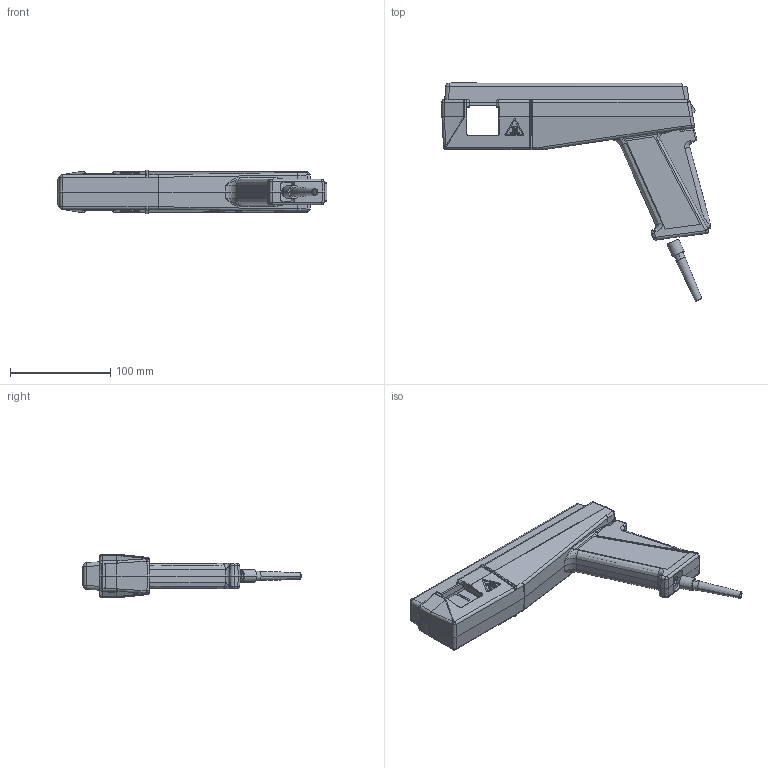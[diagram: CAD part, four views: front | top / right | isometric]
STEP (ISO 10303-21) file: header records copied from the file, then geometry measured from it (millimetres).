
FILE_DESCRIPTION((''),'2;1');
FILE_NAME('MASTER_PROBE_TCP404XL_ASM','2026-03-31T13:28:58',('mthomps2'),(''),'CREO PARAMETRIC BY PTC INC, 2022284','CREO PARAMETRIC BY PTC INC, 2022284','');
FILE_SCHEMA(('CONFIG_CONTROL_DESIGN','SHAPE_APPEARANCE_LAYERS_GROUPS'));
Length unit declared in the file: inch
Products named in the file (15): BODY_HALF_RIGHT_GA_SKEL; BODY_HALF_RIGHT_ECR37149_REV2; BODY_HALF_RIGHT_ECR37725_ASM; BODY_HALF_LEFT_GA_SKEL; BODY_HALF_LEFT_ECR37149_REV2; BODY_HALF_LEFT_ECR37725_ASM; 367021801; SLIDE_PROBE_TCP; 105071700; THUMB_LATCH_ASSY_ASM; LABEL_PROBE_TCP404XL_ECR35243; 200196000; 174496305_PROBE-TCP_ASM; STRAP_TIEDOWN; MASTER_PROBE_TCP404XL_ASM
Assembly tree (14 placements, depth 3):
  MASTER_PROBE_TCP404XL_ASM
    BODY_HALF_RIGHT_ECR37725_ASM
      BODY_HALF_RIGHT_GA_SKEL
      BODY_HALF_RIGHT_ECR37149_REV2
    BODY_HALF_LEFT_ECR37725_ASM
      BODY_HALF_LEFT_GA_SKEL
      BODY_HALF_LEFT_ECR37149_REV2
    367021801
    SLIDE_PROBE_TCP
    THUMB_LATCH_ASSY_ASM
      105071700
    LABEL_PROBE_TCP404XL_ECR35243
    174496305_PROBE-TCP_ASM
      200196000
    STRAP_TIEDOWN
Bounding box: 269.25 x 217.83 x 43.69 mm (x, y, z)
Volume: 204502.5 mm3; surface area: 177677.6 mm2
Topology: 7 solids, 8 shells, 1632 faces, 4394 edges, 2836 vertices
Faces by surface type: plane 892, cylinder 356, bspline 123, cone 121, extrusion 80, sphere 32, torus 28
Entity records: 75826 total; most frequent: CARTESIAN_POINT 22962, ORIENTED_EDGE 8776, DIRECTION 7518, EDGE_CURVE 4390, PRESENTATION_STYLE_ASSIGNMENT 3880, STYLED_ITEM 3878, CURVE_STYLE 3652, VERTEX_POINT 2836
